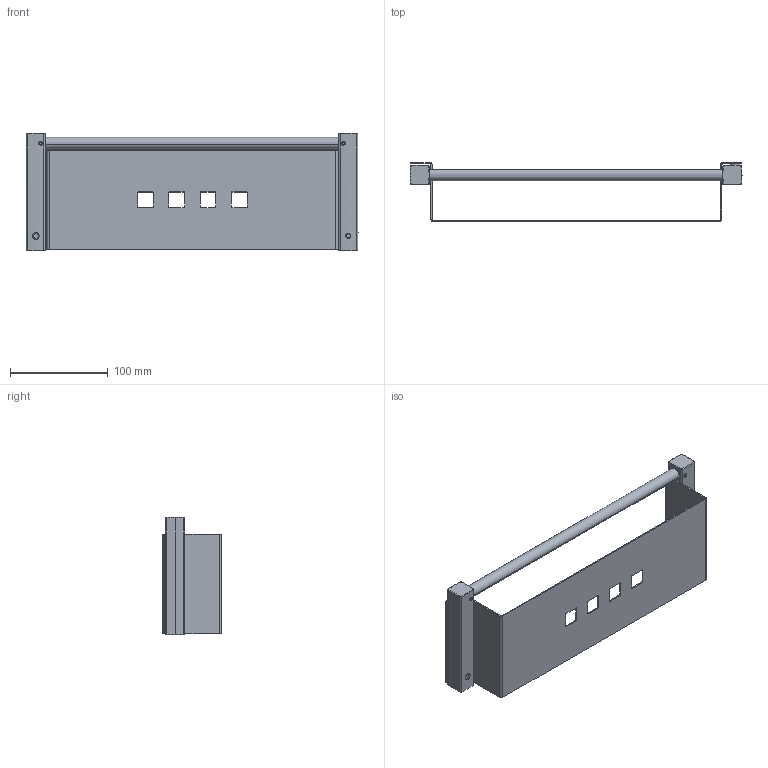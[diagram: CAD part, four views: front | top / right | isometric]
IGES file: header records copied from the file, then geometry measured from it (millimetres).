
Start section: SolidWorks IGES file using analytic representation for surfaces
Global section: file name: G:\Projects\New project\For Marketing\IGS\IGS\2015-12-4\386020002VW.IGS; native system: SolidWorks 2010; preprocessor: SolidWorks 2010; author: weijuan; date: 151201.163118; units: inch
Bounding box: 340.14 x 60 x 120 mm (x, y, z)
Surface area: 126622.7 mm2 (no closed solid volume)
Topology: 0 solids, 0 shells, 176 faces, 1589 edges, 1589 vertices
Faces by surface type: bspline 100, revolution 76
